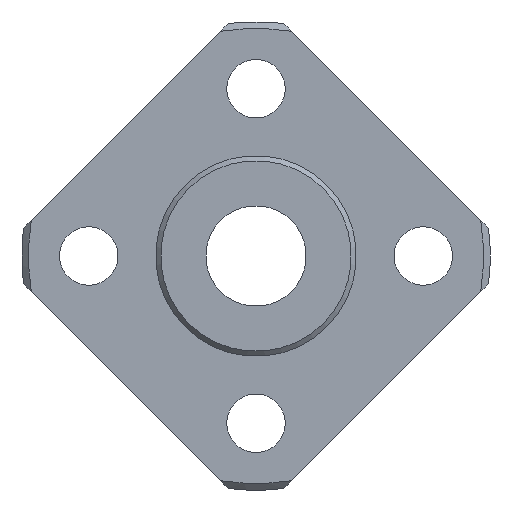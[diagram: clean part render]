
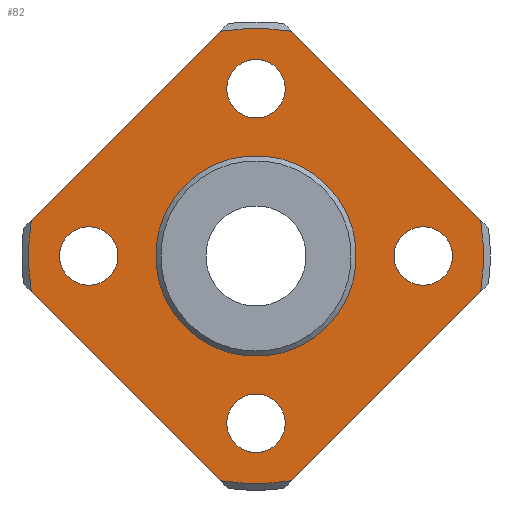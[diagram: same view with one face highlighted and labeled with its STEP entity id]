
A CAD part, left-side view. The second image highlights one B-rep face of the part: STEP entity #82.
In plain terms, the highlighted planar face has unit normal (-1, 0, 0).
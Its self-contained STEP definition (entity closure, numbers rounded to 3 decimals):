
#82=ADVANCED_FACE('',(#131,#132,#133,#134,#135,#136),#137,.T.);
#131=FACE_BOUND('',#246,.T.);
#132=FACE_BOUND('',#247,.T.);
#133=FACE_BOUND('',#248,.T.);
#134=FACE_BOUND('',#249,.T.);
#135=FACE_BOUND('',#250,.T.);
#136=FACE_OUTER_BOUND('',#251,.T.);
#137=PLANE('',#252);
#246=EDGE_LOOP('',(#404));
#247=EDGE_LOOP('',(#405));
#248=EDGE_LOOP('',(#406));
#249=EDGE_LOOP('',(#407));
#250=EDGE_LOOP('',(#408));
#251=EDGE_LOOP('',(#409,#410,#411,#412,#413,#414,#415,#416));
#252=AXIS2_PLACEMENT_3D('',#417,#418,#419);
#404=ORIENTED_EDGE('',*,*,#652,.T.);
#405=ORIENTED_EDGE('',*,*,#653,.T.);
#406=ORIENTED_EDGE('',*,*,#654,.T.);
#407=ORIENTED_EDGE('',*,*,#655,.T.);
#408=ORIENTED_EDGE('',*,*,#656,.T.);
#409=ORIENTED_EDGE('',*,*,#643,.F.);
#410=ORIENTED_EDGE('',*,*,#657,.T.);
#411=ORIENTED_EDGE('',*,*,#644,.F.);
#412=ORIENTED_EDGE('',*,*,#627,.T.);
#413=ORIENTED_EDGE('',*,*,#651,.F.);
#414=ORIENTED_EDGE('',*,*,#658,.T.);
#415=ORIENTED_EDGE('',*,*,#659,.F.);
#416=ORIENTED_EDGE('',*,*,#638,.T.);
#417=CARTESIAN_POINT('',(-5.0,6.841,6.841));
#418=DIRECTION('',(-1.0,0.0,0.));
#419=DIRECTION('',(0.,-0.707,0.707));
#627=EDGE_CURVE('',#709,#707,#710,.T.);
#638=EDGE_CURVE('',#730,#728,#731,.T.);
#643=EDGE_CURVE('',#737,#728,#739,.T.);
#644=EDGE_CURVE('',#709,#740,#741,.T.);
#651=EDGE_CURVE('',#750,#707,#752,.T.);
#652=EDGE_CURVE('',#753,#753,#754,.F.);
#653=EDGE_CURVE('',#755,#755,#756,.F.);
#654=EDGE_CURVE('',#757,#757,#758,.T.);
#655=EDGE_CURVE('',#759,#759,#760,.F.);
#656=EDGE_CURVE('',#761,#761,#762,.F.);
#657=EDGE_CURVE('',#737,#740,#763,.T.);
#658=EDGE_CURVE('',#750,#764,#765,.T.);
#659=EDGE_CURVE('',#730,#764,#766,.T.);
#707=VERTEX_POINT('',#851);
#709=VERTEX_POINT('',#856);
#710=LINE('',#857,#858);
#728=VERTEX_POINT('',#891);
#730=VERTEX_POINT('',#896);
#731=LINE('',#897,#898);
#737=VERTEX_POINT('',#908);
#739=CIRCLE('',#913,13.6);
#740=VERTEX_POINT('',#914);
#741=CIRCLE('',#915,13.6);
#750=VERTEX_POINT('',#928);
#752=CIRCLE('',#933,13.6);
#753=VERTEX_POINT('',#934);
#754=CIRCLE('',#935,1.75);
#755=VERTEX_POINT('',#936);
#756=CIRCLE('',#937,1.75);
#757=VERTEX_POINT('',#938);
#758=CIRCLE('',#939,5.75);
#759=VERTEX_POINT('',#940);
#760=CIRCLE('',#941,1.75);
#761=VERTEX_POINT('',#942);
#762=CIRCLE('',#943,1.75);
#763=LINE('',#944,#945);
#764=VERTEX_POINT('',#946);
#765=LINE('',#947,#948);
#766=CIRCLE('',#949,13.6);
#851=CARTESIAN_POINT('',(-5.0,2.123,-13.433));
#856=CARTESIAN_POINT('',(-5.0,13.433,-2.123));
#857=CARTESIAN_POINT('',(-5.0,14.619,-0.937));
#858=VECTOR('',#1036,1.0);
#891=CARTESIAN_POINT('',(-5.0,-2.123,13.433));
#896=CARTESIAN_POINT('',(-5.0,-13.433,2.123));
#897=CARTESIAN_POINT('',(-5.0,-0.937,14.619));
#898=VECTOR('',#1046,1.0);
#908=CARTESIAN_POINT('',(-5.0,2.123,13.433));
#913=AXIS2_PLACEMENT_3D('',#1051,#1052,#1053);
#914=CARTESIAN_POINT('',(-5.0,13.433,2.123));
#915=AXIS2_PLACEMENT_3D('',#1054,#1055,#1056);
#928=CARTESIAN_POINT('',(-5.0,-2.123,-13.433));
#933=AXIS2_PLACEMENT_3D('',#1067,#1068,#1069);
#934=CARTESIAN_POINT('',(-5.0,-1.237,-8.763));
#935=AXIS2_PLACEMENT_3D('',#1070,#1071,#1072);
#936=CARTESIAN_POINT('',(-5.0,-1.237,11.237));
#937=AXIS2_PLACEMENT_3D('',#1073,#1074,#1075);
#938=CARTESIAN_POINT('',(-5.0,4.066,4.066));
#939=AXIS2_PLACEMENT_3D('',#1076,#1077,#1078);
#940=CARTESIAN_POINT('',(-5.0,-11.237,1.237));
#941=AXIS2_PLACEMENT_3D('',#1079,#1080,#1081);
#942=CARTESIAN_POINT('',(-5.0,8.763,1.237));
#943=AXIS2_PLACEMENT_3D('',#1082,#1083,#1084);
#944=CARTESIAN_POINT('',(-5.0,7.778,7.778));
#945=VECTOR('',#1085,1.0);
#946=CARTESIAN_POINT('',(-5.0,-13.433,-2.123));
#947=CARTESIAN_POINT('',(-5.0,-7.778,-7.778));
#948=VECTOR('',#1086,1.0);
#949=AXIS2_PLACEMENT_3D('',#1087,#1088,#1089);
#1036=DIRECTION('',(0.,-0.707,-0.707));
#1046=DIRECTION('',(0.,0.707,0.707));
#1051=CARTESIAN_POINT('',(-5.0,0.,0.));
#1052=DIRECTION('',(1.0,0.0,0.));
#1053=DIRECTION('',(0.,0.707,0.707));
#1054=CARTESIAN_POINT('',(-5.0,0.,0.));
#1055=DIRECTION('',(1.0,0.0,0.));
#1056=DIRECTION('',(0.,0.707,0.707));
#1067=CARTESIAN_POINT('',(-5.0,0.,0.));
#1068=DIRECTION('',(1.0,0.0,0.));
#1069=DIRECTION('',(0.,0.707,0.707));
#1070=CARTESIAN_POINT('',(-5.0,0.,-10.0));
#1071=DIRECTION('',(-1.0,0.0,0.));
#1072=DIRECTION('',(0.,-0.707,0.707));
#1073=CARTESIAN_POINT('',(-5.0,0.,10.0));
#1074=DIRECTION('',(-1.0,0.0,0.));
#1075=DIRECTION('',(0.,-0.707,0.707));
#1076=CARTESIAN_POINT('',(-5.0,0.,0.));
#1077=DIRECTION('',(1.0,0.0,0.));
#1078=DIRECTION('',(0.,0.707,0.707));
#1079=CARTESIAN_POINT('',(-5.0,-10.0,0.));
#1080=DIRECTION('',(-1.0,0.0,0.));
#1081=DIRECTION('',(0.,-0.707,0.707));
#1082=CARTESIAN_POINT('',(-5.0,10.0,0.));
#1083=DIRECTION('',(-1.0,0.0,0.));
#1084=DIRECTION('',(0.,-0.707,0.707));
#1085=DIRECTION('',(0.,0.707,-0.707));
#1086=DIRECTION('',(0.,-0.707,0.707));
#1087=CARTESIAN_POINT('',(-5.0,0.,0.));
#1088=DIRECTION('',(1.0,0.0,0.));
#1089=DIRECTION('',(0.,0.707,0.707));
